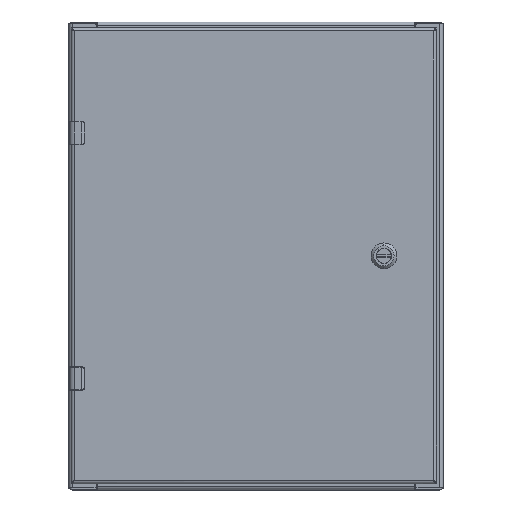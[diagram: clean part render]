
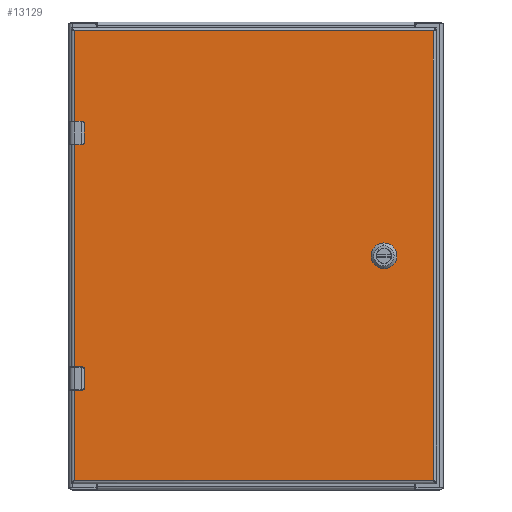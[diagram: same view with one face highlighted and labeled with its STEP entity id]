
A CAD part, top view. The second image highlights one B-rep face of the part: STEP entity #13129.
In plain terms, the highlighted planar face has unit normal (0, 0, 1).
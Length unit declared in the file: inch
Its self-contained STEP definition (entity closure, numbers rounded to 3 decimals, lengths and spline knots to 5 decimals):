
#10364=CARTESIAN_POINT('',(5.5625,0.,0.));
#10365=DIRECTION('',(0.,0.,1.));
#10366=DIRECTION('',(-0.448,0.894,0.));
#10367=AXIS2_PLACEMENT_3D('',#10364,#10365,#10366);
#10372=DIRECTION('',(0.,-1.,0.));
#10373=VECTOR('',#10372,0.39715);
#10374=CARTESIAN_POINT('',(5.1665,0.19858,0.));
#10375=LINE('',#10374,#10373);
#10379=CARTESIAN_POINT('',(5.5625,0.,0.));
#10380=DIRECTION('',(0.,0.,1.));
#10381=DIRECTION('',(-0.894,-0.448,0.));
#10382=AXIS2_PLACEMENT_3D('',#10379,#10380,#10381);
#10387=DIRECTION('',(1.,0.,0.));
#10388=VECTOR('',#10387,0.39715);
#10389=CARTESIAN_POINT('',(5.36392,-0.396,0.));
#10390=LINE('',#10389,#10388);
#10394=CARTESIAN_POINT('',(5.5625,0.,0.));
#10395=DIRECTION('',(0.,0.,1.));
#10396=DIRECTION('',(0.448,-0.894,0.));
#10397=AXIS2_PLACEMENT_3D('',#10394,#10395,#10396);
#10402=DIRECTION('',(0.,1.,0.));
#10403=VECTOR('',#10402,0.39715);
#10404=CARTESIAN_POINT('',(5.9585,-0.19858,0.));
#10405=LINE('',#10404,#10403);
#10409=CARTESIAN_POINT('',(5.5625,0.,0.));
#10410=DIRECTION('',(0.,0.,1.));
#10411=DIRECTION('',(0.894,0.448,0.));
#10412=AXIS2_PLACEMENT_3D('',#10409,#10410,#10411);
#10417=DIRECTION('',(-1.,0.,0.));
#10418=VECTOR('',#10417,0.39715);
#10419=CARTESIAN_POINT('',(5.76108,0.396,0.));
#10420=LINE('',#10419,#10418);
#10424=DIRECTION('',(1.,0.,0.));
#10425=VECTOR('',#10424,0.34892);
#10426=CARTESIAN_POINT('',(-7.6775,-5.595,0.));
#10427=LINE('',#10426,#10425);
#10431=DIRECTION('',(0.,1.,0.));
#10432=VECTOR('',#10431,0.63);
#10433=CARTESIAN_POINT('',(-7.29858,-5.565,0.));
#10434=LINE('',#10433,#10432);
#10438=DIRECTION('',(1.,0.,0.));
#10439=VECTOR('',#10438,0.34892);
#10440=CARTESIAN_POINT('',(-7.6775,-4.905,0.));
#10441=LINE('',#10440,#10439);
#10445=DIRECTION('',(1.,0.,0.));
#10446=VECTOR('',#10445,0.34892);
#10447=CARTESIAN_POINT('',(-7.6775,4.905,0.));
#10448=LINE('',#10447,#10446);
#10452=DIRECTION('',(0.,1.,0.));
#10453=VECTOR('',#10452,0.63);
#10454=CARTESIAN_POINT('',(-7.29858,4.935,0.));
#10455=LINE('',#10454,#10453);
#10459=DIRECTION('',(1.,0.,0.));
#10460=VECTOR('',#10459,0.34892);
#10461=CARTESIAN_POINT('',(-7.6775,5.595,0.));
#10462=LINE('',#10461,#10460);
#10917=CARTESIAN_POINT('',(-7.32858,-4.935,0.));
#10918=DIRECTION('',(0.,0.,-1.));
#10919=DIRECTION('',(0.,1.,0.));
#10920=AXIS2_PLACEMENT_3D('',#10917,#10918,#10919);
#10947=CARTESIAN_POINT('',(-7.32858,-5.565,0.));
#10948=DIRECTION('',(0.,0.,-1.));
#10949=DIRECTION('',(1.,0.,0.));
#10950=AXIS2_PLACEMENT_3D('',#10947,#10948,#10949);
#11000=DIRECTION('',(0.,1.,0.));
#11001=VECTOR('',#11000,9.81);
#11002=CARTESIAN_POINT('',(-7.6775,-4.905,0.));
#11003=LINE('',#11002,#11001);
#11028=DIRECTION('',(0.,1.,0.));
#11029=VECTOR('',#11028,4.02);
#11030=CARTESIAN_POINT('',(-7.6775,5.595,0.));
#11031=LINE('',#11030,#11029);
#11086=DIRECTION('',(0.,1.,0.));
#11087=VECTOR('',#11086,4.02);
#11088=CARTESIAN_POINT('',(-7.6775,-9.615,0.));
#11089=LINE('',#11088,#11087);
#11749=CARTESIAN_POINT('',(-7.32858,4.935,0.));
#11750=DIRECTION('',(0.,0.,-1.));
#11751=DIRECTION('',(1.,0.,0.));
#11752=AXIS2_PLACEMENT_3D('',#11749,#11750,#11751);
#11779=CARTESIAN_POINT('',(-7.32858,5.565,0.));
#11780=DIRECTION('',(0.,0.,-1.));
#11781=DIRECTION('',(0.,1.,0.));
#11782=AXIS2_PLACEMENT_3D('',#11779,#11780,#11781);
#12438=DIRECTION('',(-1.,0.,0.));
#12439=VECTOR('',#12438,15.355);
#12440=CARTESIAN_POINT('',(7.6775,-9.615,0.));
#12441=LINE('',#12440,#12439);
#12492=DIRECTION('',(0.,-1.,0.));
#12493=VECTOR('',#12492,19.23);
#12494=CARTESIAN_POINT('',(7.6775,9.615,0.));
#12495=LINE('',#12494,#12493);
#12636=DIRECTION('',(1.,0.,0.));
#12637=VECTOR('',#12636,15.355);
#12638=CARTESIAN_POINT('',(-7.6775,9.615,0.));
#12639=LINE('',#12638,#12637);
#12704=CARTESIAN_POINT('',(7.6775,9.615,0.));
#12705=CARTESIAN_POINT('',(7.6775,-9.615,0.));
#12706=VERTEX_POINT('',#12704);
#12707=VERTEX_POINT('',#12705);
#12792=CARTESIAN_POINT('',(5.36392,0.396,0.));
#12793=CARTESIAN_POINT('',(5.1665,0.19858,0.));
#12794=VERTEX_POINT('',#12792);
#12795=VERTEX_POINT('',#12793);
#12796=CARTESIAN_POINT('',(5.1665,-0.19858,0.));
#12797=VERTEX_POINT('',#12796);
#12798=CARTESIAN_POINT('',(5.36392,-0.396,0.));
#12799=VERTEX_POINT('',#12798);
#12800=CARTESIAN_POINT('',(5.76108,-0.396,0.));
#12801=VERTEX_POINT('',#12800);
#12802=CARTESIAN_POINT('',(5.9585,-0.19858,0.));
#12803=VERTEX_POINT('',#12802);
#12804=CARTESIAN_POINT('',(5.9585,0.19858,0.));
#12805=VERTEX_POINT('',#12804);
#12806=CARTESIAN_POINT('',(5.76108,0.396,0.));
#12807=VERTEX_POINT('',#12806);
#12897=CARTESIAN_POINT('',(-7.6775,9.615,0.));
#12899=VERTEX_POINT('',#12897);
#12904=CARTESIAN_POINT('',(-7.6775,-9.615,0.));
#12906=VERTEX_POINT('',#12904);
#12976=CARTESIAN_POINT('',(-7.6775,4.905,0.));
#12978=VERTEX_POINT('',#12976);
#12980=CARTESIAN_POINT('',(-7.6775,5.595,0.));
#12982=VERTEX_POINT('',#12980);
#12992=CARTESIAN_POINT('',(-7.6775,-5.595,0.));
#12994=VERTEX_POINT('',#12992);
#12996=CARTESIAN_POINT('',(-7.6775,-4.905,0.));
#12998=VERTEX_POINT('',#12996);
#13008=CARTESIAN_POINT('',(-7.32858,5.595,0.));
#13010=VERTEX_POINT('',#13008);
#13012=CARTESIAN_POINT('',(-7.29858,5.565,0.));
#13014=VERTEX_POINT('',#13012);
#13016=CARTESIAN_POINT('',(-7.29858,4.935,0.));
#13018=VERTEX_POINT('',#13016);
#13020=CARTESIAN_POINT('',(-7.32858,4.905,0.));
#13022=VERTEX_POINT('',#13020);
#13040=CARTESIAN_POINT('',(-7.32858,-4.905,0.));
#13042=VERTEX_POINT('',#13040);
#13044=CARTESIAN_POINT('',(-7.29858,-4.935,0.));
#13046=VERTEX_POINT('',#13044);
#13048=CARTESIAN_POINT('',(-7.29858,-5.565,0.));
#13050=VERTEX_POINT('',#13048);
#13052=CARTESIAN_POINT('',(-7.32858,-5.595,0.));
#13054=VERTEX_POINT('',#13052);
#13072=CARTESIAN_POINT('',(0.,0.,0.));
#13073=DIRECTION('',(0.,0.,-1.));
#13074=DIRECTION('',(1.,0.,0.));
#13075=AXIS2_PLACEMENT_3D('',#13072,#13073,#13074);
#13076=PLANE('',#13075);
#13078=ORIENTED_EDGE('',*,*,#13077,.T.);
#13080=ORIENTED_EDGE('',*,*,#13079,.T.);
#13082=ORIENTED_EDGE('',*,*,#13081,.T.);
#13084=ORIENTED_EDGE('',*,*,#13083,.F.);
#13086=ORIENTED_EDGE('',*,*,#13085,.T.);
#13088=ORIENTED_EDGE('',*,*,#13087,.F.);
#13090=ORIENTED_EDGE('',*,*,#13089,.F.);
#13092=ORIENTED_EDGE('',*,*,#13091,.T.);
#13094=ORIENTED_EDGE('',*,*,#13093,.T.);
#13096=ORIENTED_EDGE('',*,*,#13095,.F.);
#13098=ORIENTED_EDGE('',*,*,#13097,.T.);
#13100=ORIENTED_EDGE('',*,*,#13099,.F.);
#13102=ORIENTED_EDGE('',*,*,#13101,.F.);
#13104=ORIENTED_EDGE('',*,*,#13103,.T.);
#13106=ORIENTED_EDGE('',*,*,#13105,.T.);
#13108=ORIENTED_EDGE('',*,*,#13107,.T.);
#13109=EDGE_LOOP('',(#13078,#13080,#13082,#13084,#13086,#13088,#13090,#13092,
#13094,#13096,#13098,#13100,#13102,#13104,#13106,#13108));
#13110=FACE_OUTER_BOUND('',#13109,.F.);
#13112=ORIENTED_EDGE('',*,*,#13111,.T.);
#13114=ORIENTED_EDGE('',*,*,#13113,.T.);
#13116=ORIENTED_EDGE('',*,*,#13115,.T.);
#13118=ORIENTED_EDGE('',*,*,#13117,.T.);
#13120=ORIENTED_EDGE('',*,*,#13119,.T.);
#13122=ORIENTED_EDGE('',*,*,#13121,.T.);
#13124=ORIENTED_EDGE('',*,*,#13123,.T.);
#13126=ORIENTED_EDGE('',*,*,#13125,.T.);
#13127=EDGE_LOOP('',(#13112,#13114,#13116,#13118,#13120,#13122,#13124,#13126));
#13128=FACE_BOUND('',#13127,.F.);
#10368=CIRCLE('',#10367,0.443);
#10383=CIRCLE('',#10382,0.443);
#10398=CIRCLE('',#10397,0.443);
#10413=CIRCLE('',#10412,0.443);
#10921=CIRCLE('',#10920,0.03);
#10951=CIRCLE('',#10950,0.03);
#11753=CIRCLE('',#11752,0.03);
#11783=CIRCLE('',#11782,0.03);
#13077=EDGE_CURVE('',#12707,#12906,#12441,.T.);
#13079=EDGE_CURVE('',#12906,#12994,#11089,.T.);
#13081=EDGE_CURVE('',#12994,#13054,#10427,.T.);
#13083=EDGE_CURVE('',#13050,#13054,#10951,.T.);
#13085=EDGE_CURVE('',#13050,#13046,#10434,.T.);
#13087=EDGE_CURVE('',#13042,#13046,#10921,.T.);
#13089=EDGE_CURVE('',#12998,#13042,#10441,.T.);
#13091=EDGE_CURVE('',#12998,#12978,#11003,.T.);
#13093=EDGE_CURVE('',#12978,#13022,#10448,.T.);
#13095=EDGE_CURVE('',#13018,#13022,#11753,.T.);
#13097=EDGE_CURVE('',#13018,#13014,#10455,.T.);
#13099=EDGE_CURVE('',#13010,#13014,#11783,.T.);
#13101=EDGE_CURVE('',#12982,#13010,#10462,.T.);
#13103=EDGE_CURVE('',#12982,#12899,#11031,.T.);
#13105=EDGE_CURVE('',#12899,#12706,#12639,.T.);
#13107=EDGE_CURVE('',#12706,#12707,#12495,.T.);
#13111=EDGE_CURVE('',#12794,#12795,#10368,.T.);
#13113=EDGE_CURVE('',#12795,#12797,#10375,.T.);
#13115=EDGE_CURVE('',#12797,#12799,#10383,.T.);
#13117=EDGE_CURVE('',#12799,#12801,#10390,.T.);
#13119=EDGE_CURVE('',#12801,#12803,#10398,.T.);
#13121=EDGE_CURVE('',#12803,#12805,#10405,.T.);
#13123=EDGE_CURVE('',#12805,#12807,#10413,.T.);
#13125=EDGE_CURVE('',#12807,#12794,#10420,.T.);
#13129=ADVANCED_FACE('',(#13110,#13128),#13076,.F.);
